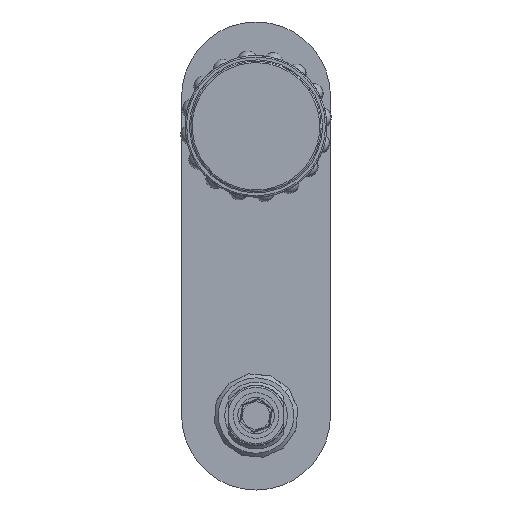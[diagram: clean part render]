
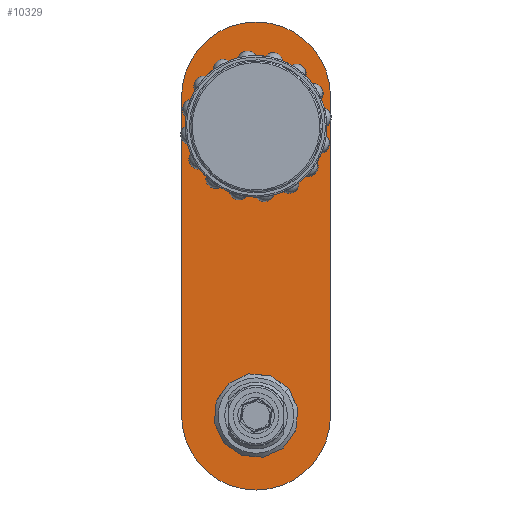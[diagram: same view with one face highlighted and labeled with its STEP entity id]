
A CAD part, front view. The second image highlights one B-rep face of the part: STEP entity #10329.
In plain terms, the highlighted planar face has unit normal (0, -1, 0).
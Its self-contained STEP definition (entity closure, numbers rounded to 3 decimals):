
#10083 = VERTEX_POINT ( 'NONE', #20533 ) ;
#10085 = EDGE_CURVE ( 'NONE', #10083, #10086, #20532, .T. ) ;
#10086 = VERTEX_POINT ( 'NONE', #20527 ) ;
#10159 = VERTEX_POINT ( 'NONE', #20658 ) ;
#10217 = EDGE_CURVE ( 'NONE', #10159, #10218, #20787, .T. ) ;
#10218 = VERTEX_POINT ( 'NONE', #20782 ) ;
#10329 = ADVANCED_FACE ( 'NONE', ( #20992, #20991, #20990 ), #20989, .F. ) ;
#10330 = EDGE_LOOP ( 'NONE', ( #10331, #10387, #10390, #10393 ) ) ;
#10331 = ORIENTED_EDGE ( 'NONE', *, *, #10384, .T. ) ;
#10368 = EDGE_LOOP ( 'NONE', ( #10369, #10371 ) ) ;
#10369 = ORIENTED_EDGE ( 'NONE', *, *, #10370, .F. ) ;
#10370 = EDGE_CURVE ( 'NONE', #10086, #10083, #21046, .T. ) ;
#10371 = ORIENTED_EDGE ( 'NONE', *, *, #10085, .F. ) ;
#10384 = EDGE_CURVE ( 'NONE', #10385, #10386, #21084, .T. ) ;
#10385 = VERTEX_POINT ( 'NONE', #21080 ) ;
#10386 = VERTEX_POINT ( 'NONE', #21079 ) ;
#10387 = ORIENTED_EDGE ( 'NONE', *, *, #10388, .F. ) ;
#10388 = EDGE_CURVE ( 'NONE', #10389, #10386, #21140, .T. ) ;
#10389 = VERTEX_POINT ( 'NONE', #21136 ) ;
#10390 = ORIENTED_EDGE ( 'NONE', *, *, #10391, .T. ) ;
#10391 = EDGE_CURVE ( 'NONE', #10389, #10392, #21135, .T. ) ;
#10392 = VERTEX_POINT ( 'NONE', #21131 ) ;
#10393 = ORIENTED_EDGE ( 'NONE', *, *, #10394, .T. ) ;
#10394 = EDGE_CURVE ( 'NONE', #10392, #10385, #21130, .T. ) ;
#10395 = EDGE_LOOP ( 'NONE', ( #10396, #10398 ) ) ;
#10396 = ORIENTED_EDGE ( 'NONE', *, *, #10397, .F. ) ;
#10397 = EDGE_CURVE ( 'NONE', #10218, #10159, #21125, .T. ) ;
#10398 = ORIENTED_EDGE ( 'NONE', *, *, #10217, .F. ) ;
#20527 = CARTESIAN_POINT ( 'NONE',  ( -22.5, 0., 95. ) ) ;
#20528 = DIRECTION ( 'NONE',  ( -1., 0., 0. ) ) ;
#20529 = DIRECTION ( 'NONE',  ( 0., -1., 0. ) ) ;
#20530 = CARTESIAN_POINT ( 'NONE',  ( 0., 0., 95. ) ) ;
#20531 = AXIS2_PLACEMENT_3D ( 'NONE', #20530, #20529, #20528 ) ;
#20532 = CIRCLE ( 'NONE', #20531, 22.5 ) ;
#20533 = CARTESIAN_POINT ( 'NONE',  ( 22.5, 0., 95. ) ) ;
#20658 = CARTESIAN_POINT ( 'NONE',  ( 11., 0., 0. ) ) ;
#20782 = CARTESIAN_POINT ( 'NONE',  ( -11., 0., 0. ) ) ;
#20783 = DIRECTION ( 'NONE',  ( -1., 0., 0. ) ) ;
#20784 = DIRECTION ( 'NONE',  ( 0., -1., 0. ) ) ;
#20785 = CARTESIAN_POINT ( 'NONE',  ( 0., 0., 0. ) ) ;
#20786 = AXIS2_PLACEMENT_3D ( 'NONE', #20785, #20784, #20783 ) ;
#20787 = CIRCLE ( 'NONE', #20786, 11. ) ;
#20983 = DIRECTION ( 'NONE',  ( -1., 0., 0. ) ) ;
#20984 = DIRECTION ( 'NONE',  ( 0., 1., 0. ) ) ;
#20985 = AXIS2_PLACEMENT_3D ( 'NONE', #20988, #20984, #20983 ) ;
#20988 = CARTESIAN_POINT ( 'NONE',  ( -13.926, 0., 105. ) ) ;
#20989 = PLANE ( 'NONE',  #20985 ) ;
#20990 = FACE_BOUND ( 'NONE', #10368, .T. ) ;
#20991 = FACE_BOUND ( 'NONE', #10395, .T. ) ;
#20992 = FACE_OUTER_BOUND ( 'NONE', #10330, .T. ) ;
#21046 = CIRCLE ( 'NONE', #21109, 22.5 ) ;
#21050 = CARTESIAN_POINT ( 'NONE',  ( 0., 0., 95. ) ) ;
#21078 = CARTESIAN_POINT ( 'NONE',  ( 0., 0., 0. ) ) ;
#21079 = CARTESIAN_POINT ( 'NONE',  ( -24.5, 0., 0. ) ) ;
#21080 = CARTESIAN_POINT ( 'NONE',  ( -24.5, 0., 105. ) ) ;
#21081 = DIRECTION ( 'NONE',  ( 0., 0., -1. ) ) ;
#21082 = VECTOR ( 'NONE', #21081, 1000. ) ;
#21083 = CARTESIAN_POINT ( 'NONE',  ( -24.5, 0., 105. ) ) ;
#21084 = LINE ( 'NONE', #21083, #21082 ) ;
#21107 = DIRECTION ( 'NONE',  ( -1., 0., 0. ) ) ;
#21108 = DIRECTION ( 'NONE',  ( 0., -1., 0. ) ) ;
#21109 = AXIS2_PLACEMENT_3D ( 'NONE', #21050, #21108, #21107 ) ;
#21121 = DIRECTION ( 'NONE',  ( -1., 0., 0. ) ) ;
#21122 = DIRECTION ( 'NONE',  ( 0., -1., 0. ) ) ;
#21123 = CARTESIAN_POINT ( 'NONE',  ( 0., 0., 0. ) ) ;
#21124 = AXIS2_PLACEMENT_3D ( 'NONE', #21123, #21122, #21121 ) ;
#21125 = CIRCLE ( 'NONE', #21124, 11. ) ;
#21126 = DIRECTION ( 'NONE',  ( 0., 0., -1. ) ) ;
#21127 = DIRECTION ( 'NONE',  ( 0., -1., 0. ) ) ;
#21128 = CARTESIAN_POINT ( 'NONE',  ( 0., 0., 105. ) ) ;
#21129 = AXIS2_PLACEMENT_3D ( 'NONE', #21128, #21127, #21126 ) ;
#21130 = CIRCLE ( 'NONE', #21129, 24.5 ) ;
#21131 = CARTESIAN_POINT ( 'NONE',  ( 24.5, 0., 105. ) ) ;
#21132 = DIRECTION ( 'NONE',  ( 0., 0., 1. ) ) ;
#21133 = VECTOR ( 'NONE', #21132, 1000. ) ;
#21134 = CARTESIAN_POINT ( 'NONE',  ( 24.5, 0., 0. ) ) ;
#21135 = LINE ( 'NONE', #21134, #21133 ) ;
#21136 = CARTESIAN_POINT ( 'NONE',  ( 24.5, 0., 0. ) ) ;
#21137 = DIRECTION ( 'NONE',  ( 0., 0., 1. ) ) ;
#21138 = DIRECTION ( 'NONE',  ( 0., 1., 0. ) ) ;
#21139 = AXIS2_PLACEMENT_3D ( 'NONE', #21078, #21138, #21137 ) ;
#21140 = CIRCLE ( 'NONE', #21139, 24.5 ) ;
